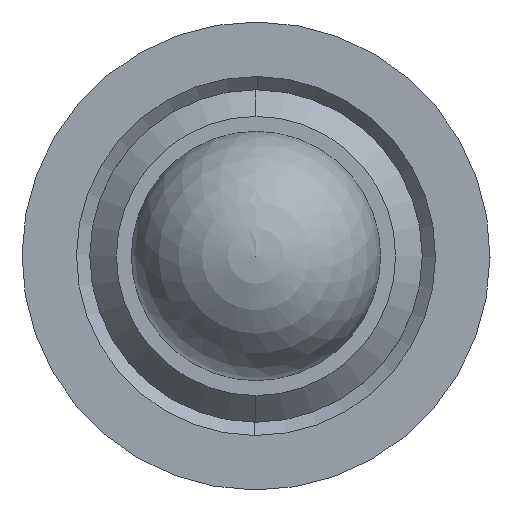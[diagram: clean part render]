
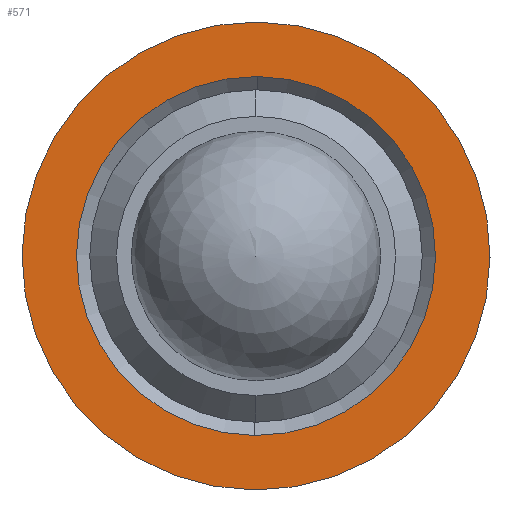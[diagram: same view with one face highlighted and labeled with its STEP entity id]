
A CAD part, left-side view. The second image highlights one B-rep face of the part: STEP entity #571.
In plain terms, the highlighted planar face has unit normal (-1, 0, 0).
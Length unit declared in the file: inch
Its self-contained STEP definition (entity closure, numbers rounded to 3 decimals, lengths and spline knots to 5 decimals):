
#47 = DIRECTION ( 'NONE',  ( 0., -0.007, 1. ) ) ;
#49 = CARTESIAN_POINT ( 'NONE',  ( -0.07306, 0.37628, 0.51717 ) ) ;
#63 = AXIS2_PLACEMENT_3D ( 'NONE', #1127, #722, #1123 ) ;
#73 = EDGE_CURVE ( 'NONE', #555, #1357, #534, .T. ) ;
#84 = EDGE_CURVE ( 'NONE', #1357, #555, #1515, .T. ) ;
#170 = VERTEX_POINT ( 'NONE', #958 ) ;
#215 = CIRCLE ( 'NONE', #1080, 0.135 ) ;
#218 = EDGE_LOOP ( 'NONE', ( #1225, #1260 ) ) ;
#229 = CARTESIAN_POINT ( 'NONE',  ( -0.07306, 0.37744, 0.34118 ) ) ;
#361 = AXIS2_PLACEMENT_3D ( 'NONE', #1344, #1355, #1175 ) ;
#534 = CIRCLE ( 'NONE', #63, 0.176 ) ;
#537 = CARTESIAN_POINT ( 'NONE',  ( -0.07306, 0.37717, 0.38218 ) ) ;
#555 = VERTEX_POINT ( 'NONE', #229 ) ;
#569 = EDGE_CURVE ( 'NONE', #1028, #170, #829, .T. ) ;
#570 = DIRECTION ( 'NONE',  ( 1., 0., 0. ) ) ;
#571 = ADVANCED_FACE ( 'NONE', ( #1039, #936 ), #1487, .F. ) ;
#573 = DIRECTION ( 'NONE',  ( 0., 0.007, -1. ) ) ;
#600 = CARTESIAN_POINT ( 'NONE',  ( -0.07306, 0.37628, 0.51717 ) ) ;
#697 = ORIENTED_EDGE ( 'NONE', *, *, #569, .T. ) ;
#722 = DIRECTION ( 'NONE',  ( -1., 0., 0. ) ) ;
#735 = DIRECTION ( 'NONE',  ( -1., 0., 0. ) ) ;
#825 = AXIS2_PLACEMENT_3D ( 'NONE', #49, #735, #47 ) ;
#829 = CIRCLE ( 'NONE', #1340, 0.135 ) ;
#936 = FACE_OUTER_BOUND ( 'NONE', #218, .T. ) ;
#958 = CARTESIAN_POINT ( 'NONE',  ( -0.07306, 0.37539, 0.65217 ) ) ;
#999 = EDGE_LOOP ( 'NONE', ( #1479, #697 ) ) ;
#1001 = EDGE_CURVE ( 'NONE', #170, #1028, #215, .T. ) ;
#1028 = VERTEX_POINT ( 'NONE', #537 ) ;
#1039 = FACE_BOUND ( 'NONE', #999, .T. ) ;
#1080 = AXIS2_PLACEMENT_3D ( 'NONE', #600, #570, #573 ) ;
#1107 = CARTESIAN_POINT ( 'NONE',  ( -0.07306, 0.37511, 0.69317 ) ) ;
#1123 = DIRECTION ( 'NONE',  ( 0., -0.007, 1. ) ) ;
#1127 = CARTESIAN_POINT ( 'NONE',  ( -0.07306, 0.37628, 0.51717 ) ) ;
#1175 = DIRECTION ( 'NONE',  ( 0., 0.007, -1. ) ) ;
#1225 = ORIENTED_EDGE ( 'NONE', *, *, #84, .T. ) ;
#1260 = ORIENTED_EDGE ( 'NONE', *, *, #73, .T. ) ;
#1340 = AXIS2_PLACEMENT_3D ( 'NONE', #1424, #1413, #1407 ) ;
#1344 = CARTESIAN_POINT ( 'NONE',  ( -0.07306, 0.37628, 0.51717 ) ) ;
#1355 = DIRECTION ( 'NONE',  ( 1., 0., 0. ) ) ;
#1357 = VERTEX_POINT ( 'NONE', #1107 ) ;
#1407 = DIRECTION ( 'NONE',  ( 0., 0.007, -1. ) ) ;
#1413 = DIRECTION ( 'NONE',  ( 1., 0., 0. ) ) ;
#1424 = CARTESIAN_POINT ( 'NONE',  ( -0.07306, 0.37628, 0.51717 ) ) ;
#1479 = ORIENTED_EDGE ( 'NONE', *, *, #1001, .T. ) ;
#1487 = PLANE ( 'NONE',  #361 ) ;
#1515 = CIRCLE ( 'NONE', #825, 0.176 ) ;
